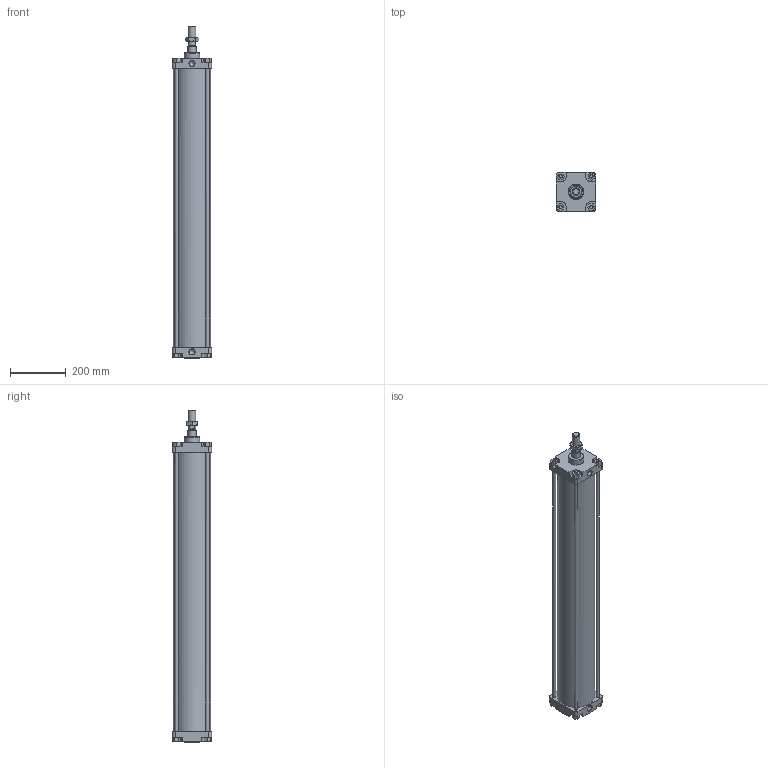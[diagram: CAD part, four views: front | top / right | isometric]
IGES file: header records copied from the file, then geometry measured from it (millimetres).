
Global section: file name: 1305_125_0900_01A; native system: Autodesk Inventor 2014; preprocessor: unknown; author: A. Manieri; date: 20161124.143413; units: millimetre
Bounding box: 140 x 140 x 1186 mm (x, y, z)
Volume: 5293209.7 mm3; surface area: 1273291.5 mm2
Topology: 9 solids, 9 shells, 175 faces, 440 edges, 295 vertices
Faces by surface type: bspline 175
